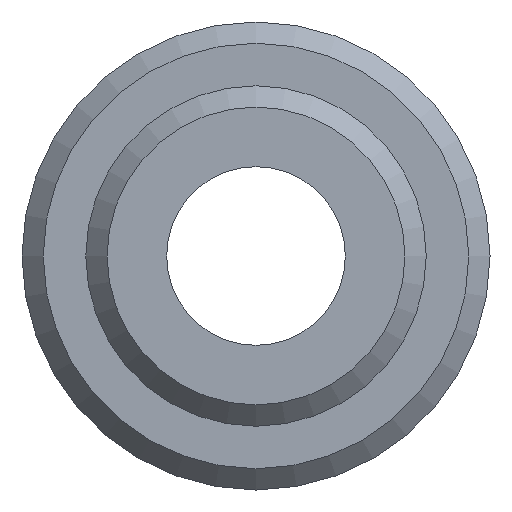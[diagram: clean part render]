
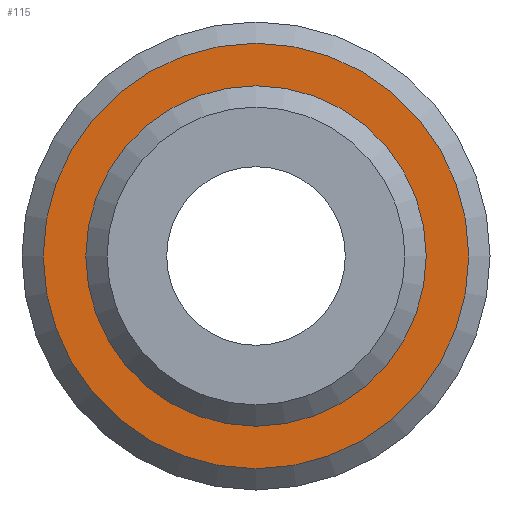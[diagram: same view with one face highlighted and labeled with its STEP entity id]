
A CAD part, front view. The second image highlights one B-rep face of the part: STEP entity #115.
In plain terms, the highlighted planar face has unit normal (0, -1, 0).
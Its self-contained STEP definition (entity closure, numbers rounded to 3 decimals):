
#73=CARTESIAN_POINT('',(-5.0,21.0,0.));
#74=VERTEX_POINT('',#73);
#75=CARTESIAN_POINT('',(0.0,21.0,0.0));
#76=DIRECTION('',(0.0,1.0,0.0));
#77=DIRECTION('',(1.0,0.0,0.0));
#78=AXIS2_PLACEMENT_3D('',#75,#76,#77);
#79=CIRCLE('',#78,5.0);
#80=EDGE_CURVE('',#74,#74,#79,.T.);
#96=CARTESIAN_POINT('',(-4.75,21.0,0.0));
#97=DIRECTION('',(0.0,-1.0,0.0));
#98=DIRECTION('',(0.0,0.0,-1.0));
#99=AXIS2_PLACEMENT_3D('',#96,#97,#98);
#100=PLANE('',#99);
#101=ORIENTED_EDGE('',*,*,#80,.F.);
#102=EDGE_LOOP('',(#101));
#103=FACE_OUTER_BOUND('',#102,.T.);
#104=CARTESIAN_POINT('',(-4.,21.0,0.0));
#105=VERTEX_POINT('',#104);
#106=CARTESIAN_POINT('',(0.0,21.0,0.0));
#107=DIRECTION('',(0.0,1.0,0.0));
#108=DIRECTION('',(-1.0,0.0,0.0));
#109=AXIS2_PLACEMENT_3D('',#106,#107,#108);
#110=CIRCLE('',#109,4.);
#111=EDGE_CURVE('',#105,#105,#110,.T.);
#112=ORIENTED_EDGE('',*,*,#111,.T.);
#113=EDGE_LOOP('',(#112));
#114=FACE_BOUND('',#113,.T.);
#115=ADVANCED_FACE('',(#103,#114),#100,.T.);
